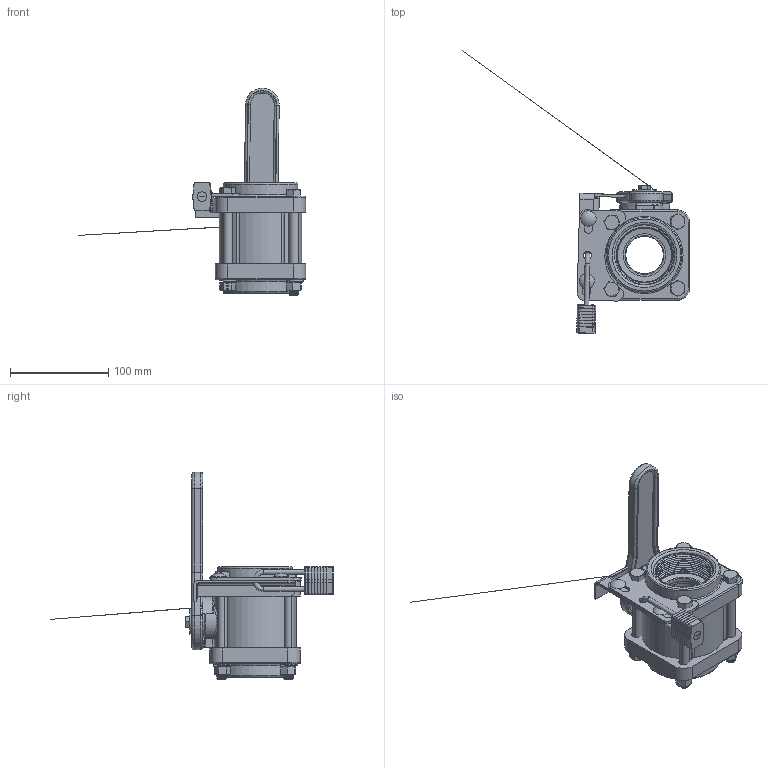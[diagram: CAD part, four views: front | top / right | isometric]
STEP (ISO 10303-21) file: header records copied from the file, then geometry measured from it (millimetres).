
FILE_DESCRIPTION(/* description */ ('Alibre Inc.'),/* implementation_level */ '2;1');
FILE_NAME(/* name */ 'export0',/* time_stamp */ '2017-12-06T09:03:01-05:00',/* author */ (''),/* organization */ (''),/* preprocessor_version */ 'ST-DEVELOPER v14',/* originating_system */ 'Alibre',/* authorisation */ '');
FILE_SCHEMA (('CONFIG_CONTROL_DESIGN'));
Length unit declared in the file: centimetre
Products named in the file (25): ID_1; ID_2; ID_3; ID_4; ID_5; ID_6; ID_7; ID_8; ID_9; ID_10; ID_11; ID_12; ID_13; ID_14; ID_15; ID_16; ID_17; ID_18; ID_19; ID_20; ID_21
Bounding box: 231.51 x 287.91 x 211.49 mm (x, y, z)
Volume: 599378 mm3; surface area: 211497.7 mm2
Topology: 42 solids, 42 shells, 1402 faces, 3499 edges, 2225 vertices
Faces by surface type: cylinder 543, plane 385, cone 180, torus 144, bspline 139, sphere 11
Full cylindrical faces by diameter (mm): 2.388 x4, 3.048 x2, 4.124 x2, 4.763 x2, 4.826 x2, 4.953 x14, 4.978 x1, 6.35 x2, 7.112 x1, 8.255 x2, 9.144 x2, 9.525 x2, 9.652 x8, 9.8 x1, 19.05 x3, 21.59 x2, 22.352 x1, 24.892 x1, 25.4 x3, 31.496 x2, 32.258 x1, 38.1 x2, 38.354 x1, 39.624 x2, 61.468 x2, 63.5 x2, 65.278 x1, 71.12 x2, 71.628 x2, 75.946 x2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
Entity records: 61778 total; most frequent: CARTESIAN_POINT 41039, ORIENTED_EDGE 4006, DIRECTION 3027, EDGE_CURVE 2003, VERTEX_POINT 1323, AXIS2_PLACEMENT_3D 1256, FACE_BOUND 956, EDGE_LOOP 955
